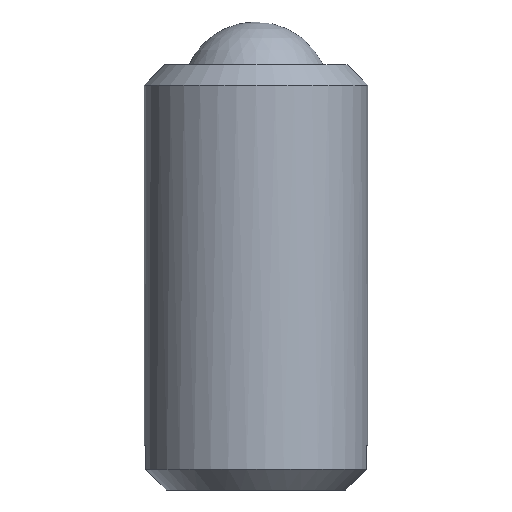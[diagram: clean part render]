
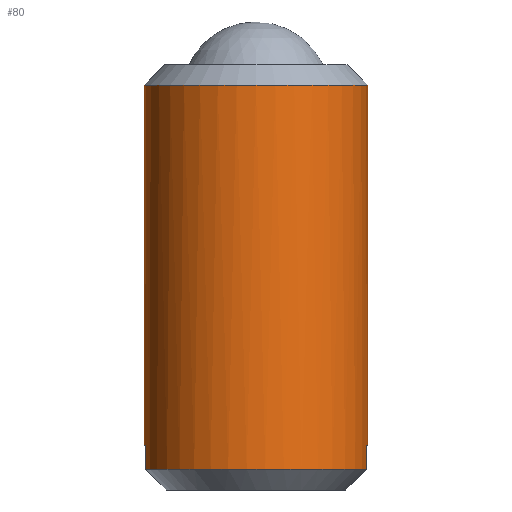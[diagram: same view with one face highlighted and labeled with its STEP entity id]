
A CAD part, front view. The second image highlights one B-rep face of the part: STEP entity #80.
In plain terms, the highlighted cylindrical face has radius 5 mm (diameter 10 mm), a full revolution.
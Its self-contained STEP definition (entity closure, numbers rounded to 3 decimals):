
#80 = ADVANCED_FACE( '', ( #100, #101 ), #102, .T. );
#100 = FACE_OUTER_BOUND( '', #126, .T. );
#101 = FACE_OUTER_BOUND( '', #127, .T. );
#102 = CYLINDRICAL_SURFACE( '', #128, 5. );
#126 = EDGE_LOOP( '', ( #172 ) );
#127 = EDGE_LOOP( '', ( #173, #174, #175, #176, #177, #178, #179, #180 ) );
#128 = AXIS2_PLACEMENT_3D( '', #181, #182, #183 );
#172 = ORIENTED_EDGE( '', *, *, #230, .F. );
#173 = ORIENTED_EDGE( '', *, *, #224, .F. );
#174 = ORIENTED_EDGE( '', *, *, #231, .T. );
#175 = ORIENTED_EDGE( '', *, *, #216, .F. );
#176 = ORIENTED_EDGE( '', *, *, #232, .T. );
#177 = ORIENTED_EDGE( '', *, *, #218, .F. );
#178 = ORIENTED_EDGE( '', *, *, #233, .T. );
#179 = ORIENTED_EDGE( '', *, *, #222, .F. );
#180 = ORIENTED_EDGE( '', *, *, #234, .T. );
#181 = CARTESIAN_POINT( '', ( 0., 0., 1.9 ) );
#182 = DIRECTION( '', ( 0., 0., -1. ) );
#183 = DIRECTION( '', ( 1., 0., 0. ) );
#216 = EDGE_CURVE( '', #238, #240, #241, .T. );
#218 = EDGE_CURVE( '', #242, #244, #245, .F. );
#222 = EDGE_CURVE( '', #250, #252, #253, .T. );
#224 = EDGE_CURVE( '', #254, #256, #257, .F. );
#230 = EDGE_CURVE( '', #265, #265, #266, .T. );
#231 = EDGE_CURVE( '', #254, #240, #267, .T. );
#232 = EDGE_CURVE( '', #238, #244, #268, .T. );
#233 = EDGE_CURVE( '', #242, #252, #269, .T. );
#234 = EDGE_CURVE( '', #250, #256, #270, .T. );
#238 = VERTEX_POINT( '', #274 );
#240 = VERTEX_POINT( '', #279 );
#241 = LINE( '', #280, #281 );
#242 = VERTEX_POINT( '', #282 );
#244 = VERTEX_POINT( '', #285 );
#245 = LINE( '', #286, #287 );
#250 = VERTEX_POINT( '', #296 );
#252 = VERTEX_POINT( '', #301 );
#253 = LINE( '', #302, #303 );
#254 = VERTEX_POINT( '', #304 );
#256 = VERTEX_POINT( '', #307 );
#257 = LINE( '', #308, #309 );
#265 = VERTEX_POINT( '', #321 );
#266 = CIRCLE( '', #322, 5. );
#267 = CIRCLE( '', #323, 5. );
#268 = CIRCLE( '', #324, 5. );
#269 = CIRCLE( '', #325, 5. );
#270 = CIRCLE( '', #326, 5. );
#274 = CARTESIAN_POINT( '', ( -4.943, -0.75, -18.08 ) );
#279 = CARTESIAN_POINT( '', ( -4.943, -0.75, -17. ) );
#280 = CARTESIAN_POINT( '', ( -4.943, -0.75, 1.9 ) );
#281 = VECTOR( '', #329, 1000. );
#282 = CARTESIAN_POINT( '', ( 4.943, -0.75, -17. ) );
#285 = CARTESIAN_POINT( '', ( 4.943, -0.75, -18.08 ) );
#286 = CARTESIAN_POINT( '', ( 4.943, -0.75, 1.9 ) );
#287 = VECTOR( '', #331, 1000. );
#296 = CARTESIAN_POINT( '', ( 4.943, 0.75, -18.08 ) );
#301 = CARTESIAN_POINT( '', ( 4.943, 0.75, -17. ) );
#302 = CARTESIAN_POINT( '', ( 4.943, 0.75, 1.9 ) );
#303 = VECTOR( '', #333, 1000. );
#304 = CARTESIAN_POINT( '', ( -4.943, 0.75, -17. ) );
#307 = CARTESIAN_POINT( '', ( -4.943, 0.75, -18.08 ) );
#308 = CARTESIAN_POINT( '', ( -4.943, 0.75, 1.9 ) );
#309 = VECTOR( '', #335, 1000. );
#321 = CARTESIAN_POINT( '', ( 5., 0., -0.92 ) );
#322 = AXIS2_PLACEMENT_3D( '', #343, #344, #345 );
#323 = AXIS2_PLACEMENT_3D( '', #346, #347, #348 );
#324 = AXIS2_PLACEMENT_3D( '', #349, #350, #351 );
#325 = AXIS2_PLACEMENT_3D( '', #352, #353, #354 );
#326 = AXIS2_PLACEMENT_3D( '', #355, #356, #357 );
#329 = DIRECTION( '', ( 0., 0., 1. ) );
#331 = DIRECTION( '', ( 0., 0., 1. ) );
#333 = DIRECTION( '', ( 0., 0., 1. ) );
#335 = DIRECTION( '', ( 0., 0., 1. ) );
#343 = CARTESIAN_POINT( '', ( 0., 0., -0.92 ) );
#344 = DIRECTION( '', ( 0., 0., 1. ) );
#345 = DIRECTION( '', ( 1., 0., 0. ) );
#346 = CARTESIAN_POINT( '', ( 0., 0., -17. ) );
#347 = DIRECTION( '', ( 0., 0., 1. ) );
#348 = DIRECTION( '', ( 1., 0., 0. ) );
#349 = CARTESIAN_POINT( '', ( 0., 0., -18.08 ) );
#350 = DIRECTION( '', ( 0., 0., 1. ) );
#351 = DIRECTION( '', ( 1., 0., 0. ) );
#352 = CARTESIAN_POINT( '', ( 0., 0., -17. ) );
#353 = DIRECTION( '', ( 0., 0., 1. ) );
#354 = DIRECTION( '', ( 1., 0., 0. ) );
#355 = CARTESIAN_POINT( '', ( 0., 0., -18.08 ) );
#356 = DIRECTION( '', ( 0., 0., 1. ) );
#357 = DIRECTION( '', ( 1., 0., 0. ) );
